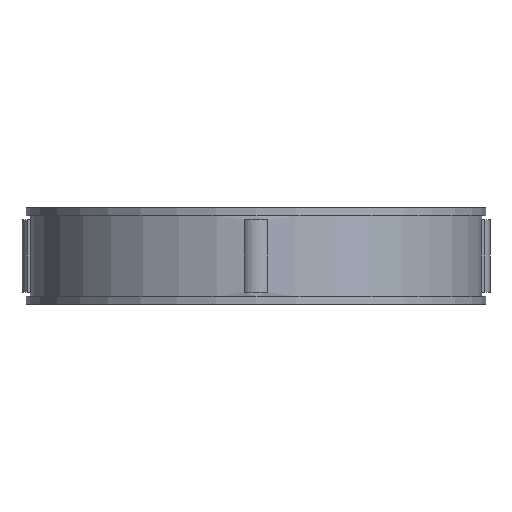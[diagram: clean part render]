
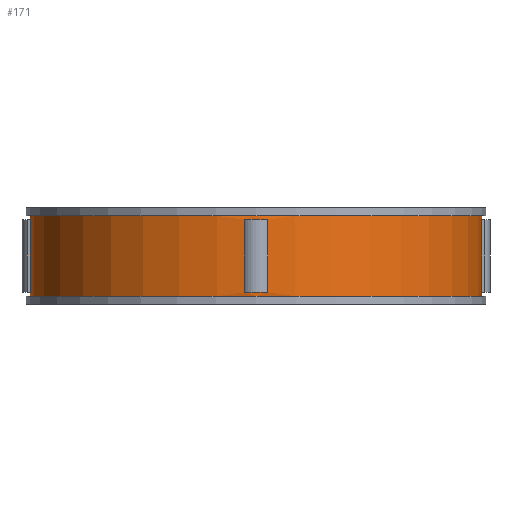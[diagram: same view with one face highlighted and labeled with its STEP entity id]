
A CAD part, front view. The second image highlights one B-rep face of the part: STEP entity #171.
In plain terms, the highlighted cylindrical face has radius 28 mm (diameter 56 mm), a full revolution.
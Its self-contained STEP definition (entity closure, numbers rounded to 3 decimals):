
#171=ADVANCED_FACE('',(#359,#360,#361,#362,#363,#364),#219,.T.);
#219=CYLINDRICAL_SURFACE('',#882,28.);
#231=LINE('',#1207,#295);
#232=LINE('',#1212,#296);
#233=LINE('',#1215,#297);
#234=LINE('',#1220,#298);
#235=LINE('',#1223,#299);
#236=LINE('',#1228,#300);
#237=LINE('',#1234,#301);
#238=LINE('',#1238,#302);
#295=VECTOR('',#966,1.);
#296=VECTOR('',#969,1.);
#297=VECTOR('',#972,1.);
#298=VECTOR('',#975,1.);
#299=VECTOR('',#978,1.);
#300=VECTOR('',#981,1.);
#301=VECTOR('',#986,1.);
#302=VECTOR('',#989,1.);
#359=FACE_BOUND('',#383,.T.);
#360=FACE_BOUND('',#384,.T.);
#361=FACE_BOUND('',#385,.T.);
#362=FACE_BOUND('',#386,.T.);
#363=FACE_BOUND('',#387,.T.);
#364=FACE_BOUND('',#388,.T.);
#383=EDGE_LOOP('',(#447));
#384=EDGE_LOOP('',(#448));
#385=EDGE_LOOP('',(#449,#450,#451,#452));
#386=EDGE_LOOP('',(#453,#454,#455,#456));
#387=EDGE_LOOP('',(#457,#458,#459,#460));
#388=EDGE_LOOP('',(#461,#462,#463,#464));
#447=ORIENTED_EDGE('',*,*,#727,.F.);
#448=ORIENTED_EDGE('',*,*,#728,.T.);
#449=ORIENTED_EDGE('',*,*,#729,.F.);
#450=ORIENTED_EDGE('',*,*,#730,.T.);
#451=ORIENTED_EDGE('',*,*,#731,.F.);
#452=ORIENTED_EDGE('',*,*,#732,.F.);
#453=ORIENTED_EDGE('',*,*,#733,.F.);
#454=ORIENTED_EDGE('',*,*,#734,.T.);
#455=ORIENTED_EDGE('',*,*,#735,.F.);
#456=ORIENTED_EDGE('',*,*,#736,.F.);
#457=ORIENTED_EDGE('',*,*,#737,.F.);
#458=ORIENTED_EDGE('',*,*,#738,.T.);
#459=ORIENTED_EDGE('',*,*,#739,.F.);
#460=ORIENTED_EDGE('',*,*,#740,.F.);
#461=ORIENTED_EDGE('',*,*,#741,.F.);
#462=ORIENTED_EDGE('',*,*,#742,.T.);
#463=ORIENTED_EDGE('',*,*,#743,.T.);
#464=ORIENTED_EDGE('',*,*,#744,.T.);
#655=VERTEX_POINT('',#1204);
#656=VERTEX_POINT('',#1206);
#657=VERTEX_POINT('',#1208);
#658=VERTEX_POINT('',#1209);
#659=VERTEX_POINT('',#1211);
#660=VERTEX_POINT('',#1213);
#661=VERTEX_POINT('',#1216);
#662=VERTEX_POINT('',#1217);
#663=VERTEX_POINT('',#1219);
#664=VERTEX_POINT('',#1221);
#665=VERTEX_POINT('',#1224);
#666=VERTEX_POINT('',#1225);
#667=VERTEX_POINT('',#1227);
#668=VERTEX_POINT('',#1229);
#669=VERTEX_POINT('',#1232);
#670=VERTEX_POINT('',#1233);
#671=VERTEX_POINT('',#1235);
#672=VERTEX_POINT('',#1237);
#727=EDGE_CURVE('',#655,#655,#831,.T.);
#728=EDGE_CURVE('',#656,#656,#832,.T.);
#729=EDGE_CURVE('',#657,#658,#231,.T.);
#730=EDGE_CURVE('',#657,#659,#833,.T.);
#731=EDGE_CURVE('',#660,#659,#232,.T.);
#732=EDGE_CURVE('',#658,#660,#834,.T.);
#733=EDGE_CURVE('',#661,#662,#233,.T.);
#734=EDGE_CURVE('',#661,#663,#835,.T.);
#735=EDGE_CURVE('',#664,#663,#234,.T.);
#736=EDGE_CURVE('',#662,#664,#836,.T.);
#737=EDGE_CURVE('',#665,#666,#235,.T.);
#738=EDGE_CURVE('',#665,#667,#837,.T.);
#739=EDGE_CURVE('',#668,#667,#236,.T.);
#740=EDGE_CURVE('',#666,#668,#838,.T.);
#741=EDGE_CURVE('',#669,#670,#839,.T.);
#742=EDGE_CURVE('',#669,#671,#237,.T.);
#743=EDGE_CURVE('',#671,#672,#840,.T.);
#744=EDGE_CURVE('',#672,#670,#238,.T.);
#831=CIRCLE('',#872,28.);
#832=CIRCLE('',#873,28.);
#833=CIRCLE('',#874,28.);
#834=CIRCLE('',#875,28.);
#835=CIRCLE('',#876,28.);
#836=CIRCLE('',#877,28.);
#837=CIRCLE('',#878,28.);
#838=CIRCLE('',#879,28.);
#839=CIRCLE('',#880,28.);
#840=CIRCLE('',#881,28.);
#872=AXIS2_PLACEMENT_3D('',#1203,#962,#963);
#873=AXIS2_PLACEMENT_3D('',#1205,#964,#965);
#874=AXIS2_PLACEMENT_3D('',#1210,#967,#968);
#875=AXIS2_PLACEMENT_3D('',#1214,#970,#971);
#876=AXIS2_PLACEMENT_3D('',#1218,#973,#974);
#877=AXIS2_PLACEMENT_3D('',#1222,#976,#977);
#878=AXIS2_PLACEMENT_3D('',#1226,#979,#980);
#879=AXIS2_PLACEMENT_3D('',#1230,#982,#983);
#880=AXIS2_PLACEMENT_3D('',#1231,#984,#985);
#881=AXIS2_PLACEMENT_3D('',#1236,#987,#988);
#882=AXIS2_PLACEMENT_3D('',#1239,#990,#991);
#962=DIRECTION('',(0.,0.,1.));
#963=DIRECTION('',(1.,0.,0.));
#964=DIRECTION('',(0.,0.,1.));
#965=DIRECTION('',(1.,0.,0.));
#966=DIRECTION('',(0.,0.,-1.));
#967=DIRECTION('',(0.,0.,1.));
#968=DIRECTION('',(1.,0.,0.));
#969=DIRECTION('',(0.,0.,1.));
#970=DIRECTION('',(0.,0.,1.));
#971=DIRECTION('',(1.,0.,0.));
#972=DIRECTION('',(0.,0.,-1.));
#973=DIRECTION('',(0.,0.,1.));
#974=DIRECTION('',(1.,0.,0.));
#975=DIRECTION('',(0.,0.,1.));
#976=DIRECTION('',(0.,0.,1.));
#977=DIRECTION('',(1.,0.,0.));
#978=DIRECTION('',(0.,0.,-1.));
#979=DIRECTION('',(0.,0.,1.));
#980=DIRECTION('',(1.,0.,0.));
#981=DIRECTION('',(0.,0.,1.));
#982=DIRECTION('',(0.,0.,1.));
#983=DIRECTION('',(1.,0.,0.));
#984=DIRECTION('',(0.,0.,-1.));
#985=DIRECTION('',(-1.,0.,0.));
#986=DIRECTION('',(0.,0.,-1.));
#987=DIRECTION('',(0.,0.,-1.));
#988=DIRECTION('',(-1.,0.,0.));
#989=DIRECTION('',(0.,0.,1.));
#990=DIRECTION('',(0.,0.,-1.));
#991=DIRECTION('',(-1.,0.,0.));
#1203=CARTESIAN_POINT('',(0.,0.,11.));
#1204=CARTESIAN_POINT('',(28.,0.,11.));
#1205=CARTESIAN_POINT('',(0.,0.,1.));
#1206=CARTESIAN_POINT('',(28.,0.,1.));
#1207=CARTESIAN_POINT('',(27.961,-1.471,12.));
#1208=CARTESIAN_POINT('',(27.961,-1.471,10.5));
#1209=CARTESIAN_POINT('',(27.961,-1.471,1.5));
#1210=CARTESIAN_POINT('',(0.,0.,10.5));
#1211=CARTESIAN_POINT('',(27.961,1.471,10.5));
#1212=CARTESIAN_POINT('',(27.961,1.471,12.));
#1213=CARTESIAN_POINT('',(27.961,1.471,1.5));
#1214=CARTESIAN_POINT('',(0.,0.,1.5));
#1215=CARTESIAN_POINT('',(1.471,27.961,12.));
#1216=CARTESIAN_POINT('',(1.471,27.961,10.5));
#1217=CARTESIAN_POINT('',(1.471,27.961,1.5));
#1218=CARTESIAN_POINT('',(0.,0.,10.5));
#1219=CARTESIAN_POINT('',(-1.471,27.961,10.5));
#1220=CARTESIAN_POINT('',(-1.471,27.961,12.));
#1221=CARTESIAN_POINT('',(-1.471,27.961,1.5));
#1222=CARTESIAN_POINT('',(0.,0.,1.5));
#1223=CARTESIAN_POINT('',(-27.961,1.471,12.));
#1224=CARTESIAN_POINT('',(-27.961,1.471,10.5));
#1225=CARTESIAN_POINT('',(-27.961,1.471,1.5));
#1226=CARTESIAN_POINT('',(0.,0.,10.5));
#1227=CARTESIAN_POINT('',(-27.961,-1.471,10.5));
#1228=CARTESIAN_POINT('',(-27.961,-1.471,12.));
#1229=CARTESIAN_POINT('',(-27.961,-1.471,1.5));
#1230=CARTESIAN_POINT('',(0.,0.,1.5));
#1231=CARTESIAN_POINT('',(0.,0.,10.5));
#1232=CARTESIAN_POINT('',(1.471,-27.961,10.5));
#1233=CARTESIAN_POINT('',(-1.471,-27.961,10.5));
#1234=CARTESIAN_POINT('',(1.471,-27.961,12.));
#1235=CARTESIAN_POINT('',(1.471,-27.961,1.5));
#1236=CARTESIAN_POINT('',(0.,0.,1.5));
#1237=CARTESIAN_POINT('',(-1.471,-27.961,1.5));
#1238=CARTESIAN_POINT('',(-1.471,-27.961,12.));
#1239=CARTESIAN_POINT('',(0.,0.,12.));
